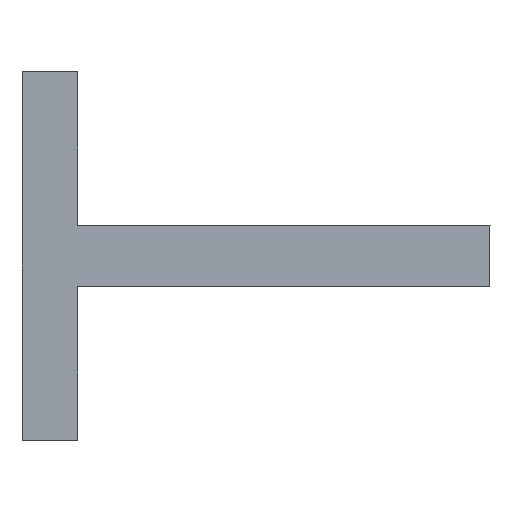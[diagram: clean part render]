
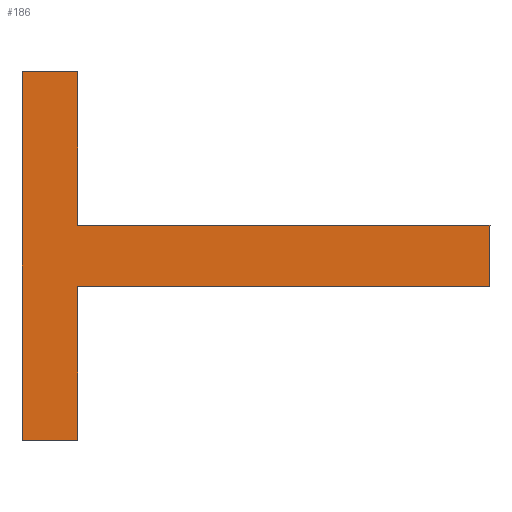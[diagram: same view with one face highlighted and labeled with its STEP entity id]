
A CAD part, top view. The second image highlights one B-rep face of the part: STEP entity #186.
In plain terms, the highlighted planar face has unit normal (0, 0, 1).
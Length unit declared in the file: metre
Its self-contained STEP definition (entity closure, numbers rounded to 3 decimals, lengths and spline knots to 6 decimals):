
#44=ORIENTED_EDGE('',*,*,#83,.T.);
#45=ORIENTED_EDGE('',*,*,#81,.T.);
#46=ORIENTED_EDGE('',*,*,#78,.T.);
#47=ORIENTED_EDGE('',*,*,#75,.T.);
#48=ORIENTED_EDGE('',*,*,#72,.T.);
#49=ORIENTED_EDGE('',*,*,#69,.T.);
#50=ORIENTED_EDGE('',*,*,#66,.T.);
#51=ORIENTED_EDGE('',*,*,#63,.T.);
#63=EDGE_CURVE('',#84,#87,#103,.T.);
#66=EDGE_CURVE('',#88,#84,#106,.F.);
#69=EDGE_CURVE('',#90,#88,#109,.F.);
#72=EDGE_CURVE('',#92,#90,#112,.F.);
#75=EDGE_CURVE('',#94,#92,#115,.F.);
#78=EDGE_CURVE('',#96,#94,#118,.T.);
#81=EDGE_CURVE('',#98,#96,#121,.T.);
#83=EDGE_CURVE('',#87,#98,#123,.F.);
#84=VERTEX_POINT('',#252);
#87=VERTEX_POINT('',#257);
#88=VERTEX_POINT('',#261);
#90=VERTEX_POINT('',#267);
#92=VERTEX_POINT('',#273);
#94=VERTEX_POINT('',#279);
#96=VERTEX_POINT('',#285);
#98=VERTEX_POINT('',#291);
#103=LINE('',#258,#127);
#106=LINE('',#264,#130);
#109=LINE('',#270,#133);
#112=LINE('',#276,#136);
#115=LINE('',#282,#139);
#118=LINE('',#288,#142);
#121=LINE('',#294,#145);
#123=LINE('',#297,#147);
#127=VECTOR('',#210,1.);
#130=VECTOR('',#215,1.);
#133=VECTOR('',#220,1.);
#136=VECTOR('',#225,1.);
#139=VECTOR('',#230,1.);
#142=VECTOR('',#235,1.);
#145=VECTOR('',#240,1.);
#147=VECTOR('',#244,1.);
#156=EDGE_LOOP('',(#44,#45,#46,#47,#48,#49,#50,#51));
#166=FACE_BOUND('',#156,.T.);
#176=PLANE('',#201);
#186=ADVANCED_FACE('',(#166),#176,.F.);
#201=AXIS2_PLACEMENT_3D('',#298,#245,#246);
#210=DIRECTION('',(-1.,0.,0.));
#215=DIRECTION('',(0.,-1.,0.));
#220=DIRECTION('',(-1.,0.,0.));
#225=DIRECTION('',(0.,-1.,0.));
#230=DIRECTION('',(-1.,0.,0.));
#235=DIRECTION('',(0.,-1.,0.));
#240=DIRECTION('',(-1.,0.,0.));
#244=DIRECTION('',(0.,-1.,0.));
#245=DIRECTION('',(0.,0.,-1.));
#246=DIRECTION('',(0.,-1.,0.));
#252=CARTESIAN_POINT('',(-0.022188,-0.000838,-0.03));
#257=CARTESIAN_POINT('',(-0.023177,-0.000838,-0.03));
#258=CARTESIAN_POINT('',(-0.022931,-0.000838,-0.03));
#261=CARTESIAN_POINT('',(-0.022188,-0.000985,-0.03));
#264=CARTESIAN_POINT('',(-0.022188,-0.000911,-0.03));
#267=CARTESIAN_POINT('',(-0.023177,-0.000985,-0.03));
#270=CARTESIAN_POINT('',(-0.022931,-0.000985,-0.03));
#273=CARTESIAN_POINT('',(-0.023177,-0.001353,-0.03));
#276=CARTESIAN_POINT('',(-0.023177,-0.000911,-0.03));
#279=CARTESIAN_POINT('',(-0.02331,-0.001353,-0.03));
#282=CARTESIAN_POINT('',(-0.022931,-0.001353,-0.03));
#285=CARTESIAN_POINT('',(-0.02331,-0.00047,-0.03));
#288=CARTESIAN_POINT('',(-0.02331,-0.000911,-0.03));
#291=CARTESIAN_POINT('',(-0.023177,-0.00047,-0.03));
#294=CARTESIAN_POINT('',(-0.022931,-0.00047,-0.03));
#297=CARTESIAN_POINT('',(-0.023177,-0.000911,-0.03));
#298=CARTESIAN_POINT('',(-0.022931,-0.000911,-0.03));
